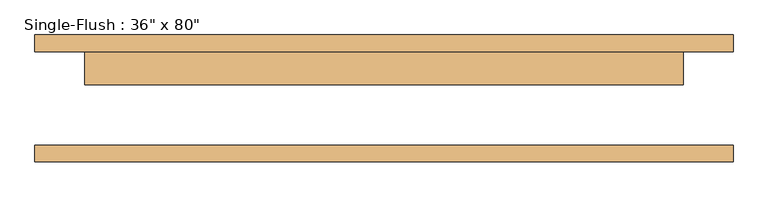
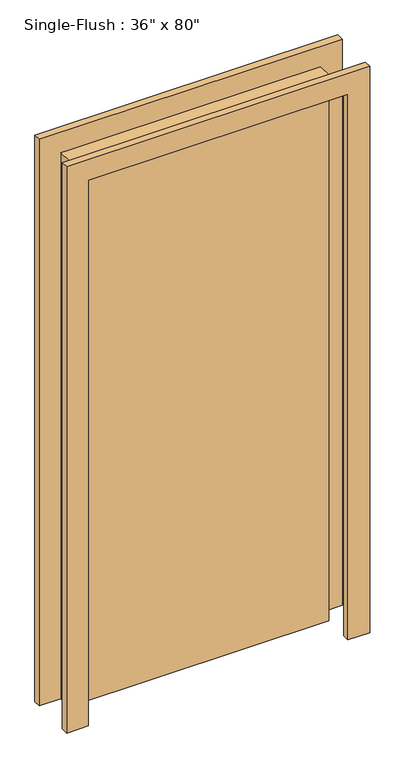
"""IFC4 building model written with IfcOpenShell, lengths in millimetres: door geometry."""

from ifc_helpers import new_model, si_unit, frame, origin, origin_with_axes, place, context, project, spatial, polyline, outline, extrude, source, transform, mapped, element, save


def door_140ee3fe(model_context):
    return source(origin(), model_context, "Body", "SweptSolid", [
        extrude(outline(polyline([(2108.2, -533.4), (0.0, -533.4), (0.0, -457.2), (2032.0, -457.2), (2032.0, 457.2), (0.0, 457.2), (0.0, 533.4), (2108.2, 533.4), (2108.2, -533.4)])), frame((0.0, 71.4375, 0.0), z_axis=(0.0, 1.0, 0.0), x_axis=(0.0, 0.0, 1.0)), (0.0, 0.0, 1.0), 25.4),
        extrude(outline(polyline([(2108.2, 533.4), (2108.2, -533.4), (0.0, -533.4), (0.0, -457.2), (2032.0, -457.2), (2032.0, 457.2), (0.0, 457.2), (0.0, 533.4), (2108.2, 533.4)])), frame((0.0, -96.8375, 0.0), z_axis=(0.0, 1.0, 0.0), x_axis=(0.0, 0.0, 1.0)), (0.0, 0.0, 1.0), 25.4),
        extrude(outline(polyline([(457.2, 20.6375), (-457.2, 20.6375), (-457.2, 71.4375), (457.2, 71.4375), (457.2, 20.6375)])), origin_with_axes(), (0.0, 0.0, 1.0), 2032.0),
    ])


if __name__ == "__main__":
    model = new_model("IFC4")
    model_context = context("Model", 3, world=origin())
    ifc_project = project(units=[si_unit("LENGTHUNIT", "METRE", prefix="MILLI")], contexts=[model_context])
    site = spatial("IfcSite", under=ifc_project)
    building = spatial("IfcBuilding", under=site)
    placement = place(None, origin())
    door_shape = door_140ee3fe(model_context)
    element("IfcDoor", 1, ObjectType="Single-Flush : 36\" x 80\"", at=placement, inside=building, context=model_context, shape_type="MappedRepresentation", body=[
        mapped(door_shape, transform((0.0, 0.0, 0.0), x_axis=(1.0, 0.0, 0.0), y_axis=(0.0, 1.0, 0.0), z_axis=(0.0, 0.0, 1.0))),
    ])
    save(model, "model.ifc")
